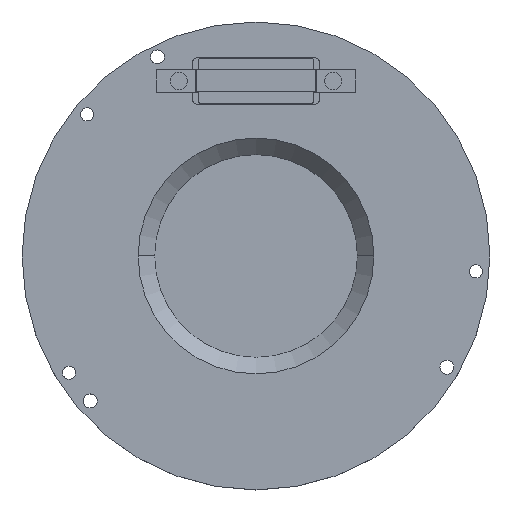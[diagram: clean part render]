
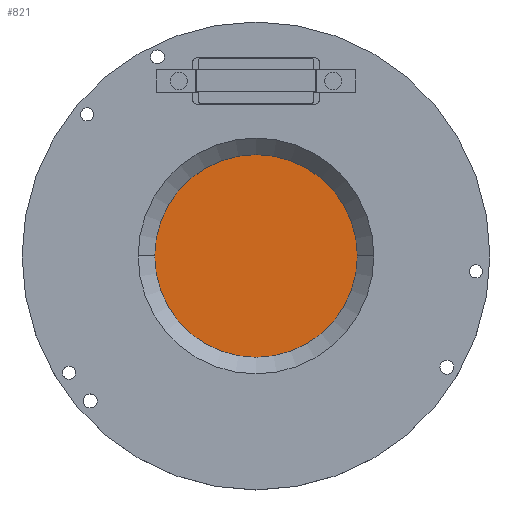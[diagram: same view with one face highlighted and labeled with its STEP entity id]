
A CAD part, top view. The second image highlights one B-rep face of the part: STEP entity #821.
In plain terms, the highlighted planar face has unit normal (0, 0, 1).
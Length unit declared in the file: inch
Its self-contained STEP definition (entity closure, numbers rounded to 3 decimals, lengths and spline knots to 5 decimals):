
#195 = EDGE_CURVE ( 'NONE', #201, #202, #1111, .T. ) ;
#201 = VERTEX_POINT ( 'NONE', #1042 ) ;
#202 = VERTEX_POINT ( 'NONE', #1032 ) ;
#536 = EDGE_CURVE ( 'NONE', #202, #201, #1895, .T. ) ;
#817 = EDGE_LOOP ( 'NONE', ( #820, #833 ) ) ;
#820 = ORIENTED_EDGE ( 'NONE', *, *, #195, .T. ) ;
#821 = ADVANCED_FACE ( 'NONE', ( #2424 ), #2423, .T. ) ;
#833 = ORIENTED_EDGE ( 'NONE', *, *, #536, .T. ) ;
#1032 = CARTESIAN_POINT ( 'NONE',  ( 0.689, 0., 0.045 ) ) ;
#1038 = DIRECTION ( 'NONE',  ( 1., 0., 0. ) ) ;
#1039 = DIRECTION ( 'NONE',  ( 0., 0., 1. ) ) ;
#1040 = AXIS2_PLACEMENT_3D ( 'NONE', #1043, #1039, #1038 ) ;
#1042 = CARTESIAN_POINT ( 'NONE',  ( -0.689, 0., 0.045 ) ) ;
#1043 = CARTESIAN_POINT ( 'NONE',  ( 0., 0., 0.045 ) ) ;
#1111 = CIRCLE ( 'NONE', #1040, 0.689 ) ;
#1799 = CARTESIAN_POINT ( 'NONE',  ( 0., 0., 0.045 ) ) ;
#1800 = AXIS2_PLACEMENT_3D ( 'NONE', #1799, #1945, #1944 ) ;
#1895 = CIRCLE ( 'NONE', #1800, 0.689 ) ;
#1944 = DIRECTION ( 'NONE',  ( 1., 0., 0. ) ) ;
#1945 = DIRECTION ( 'NONE',  ( 0., 0., 1. ) ) ;
#2395 = DIRECTION ( 'NONE',  ( 1., 0., 0. ) ) ;
#2396 = DIRECTION ( 'NONE',  ( 0., 0., 1. ) ) ;
#2415 = AXIS2_PLACEMENT_3D ( 'NONE', #2446, #2396, #2395 ) ;
#2423 = PLANE ( 'NONE',  #2415 ) ;
#2424 = FACE_OUTER_BOUND ( 'NONE', #817, .T. ) ;
#2446 = CARTESIAN_POINT ( 'NONE',  ( 0., 0., 0.045 ) ) ;
